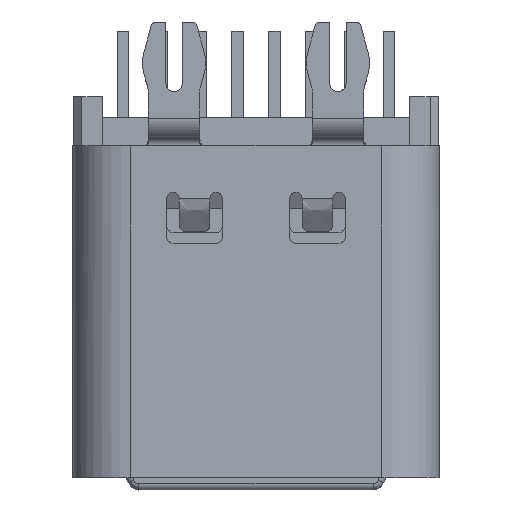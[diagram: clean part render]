
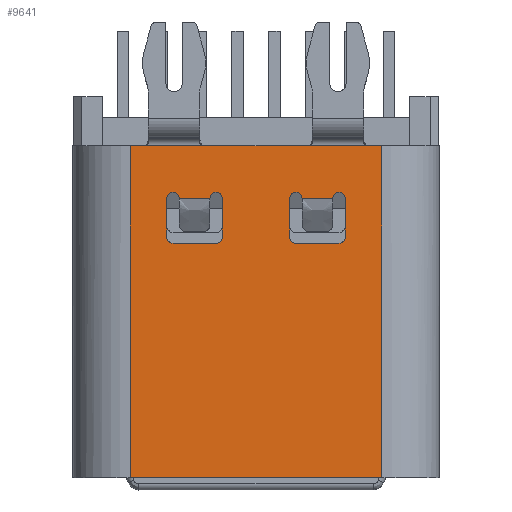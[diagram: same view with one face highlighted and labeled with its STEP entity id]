
A CAD part, top view. The second image highlights one B-rep face of the part: STEP entity #9641.
In plain terms, the highlighted planar face has unit normal (0, 0, 1).
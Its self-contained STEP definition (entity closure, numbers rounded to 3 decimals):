
#341=DIRECTION('',(0.,-1.,0.));
#342=VECTOR('',#341,8.099);
#343=CARTESIAN_POINT('',(-3.07,3.674,1.13));
#344=LINE('',#343,#342);
#577=DIRECTION('',(0.,1.,0.));
#578=VECTOR('',#577,8.099);
#579=CARTESIAN_POINT('',(3.07,-4.425,1.13));
#580=LINE('',#579,#578);
#2213=DIRECTION('',(-1.,0.,0.));
#2214=VECTOR('',#2213,1.45);
#2215=CARTESIAN_POINT('',(2.725,3.674,1.13));
#2216=LINE('',#2215,#2214);
#2217=CARTESIAN_POINT('',(1.275,3.674,1.13));
#2237=CARTESIAN_POINT('',(2.725,3.674,1.13));
#2239=DIRECTION('',(-1.,0.,0.));
#2240=VECTOR('',#2239,6.14);
#2241=CARTESIAN_POINT('',(3.07,-4.425,1.13));
#2242=LINE('',#2241,#2240);
#2243=DIRECTION('',(1.,0.,0.));
#2244=VECTOR('',#2243,0.345);
#2245=CARTESIAN_POINT('',(-3.07,3.674,1.13));
#2246=LINE('',#2245,#2244);
#2247=DIRECTION('',(1.,0.,0.));
#2248=VECTOR('',#2247,2.55);
#2249=CARTESIAN_POINT('',(-1.275,3.674,1.13));
#2250=LINE('',#2249,#2248);
#2251=DIRECTION('',(1.,0.,0.));
#2252=VECTOR('',#2251,0.345);
#2253=CARTESIAN_POINT('',(2.725,3.674,1.13));
#2254=LINE('',#2253,#2252);
#2255=CARTESIAN_POINT('',(-2.025,2.391,1.13));
#2256=DIRECTION('',(0.,0.,-1.));
#2257=DIRECTION('',(-1.,0.,0.));
#2258=AXIS2_PLACEMENT_3D('',#2255,#2256,#2257);
#2260=DIRECTION('',(0.,1.,0.));
#2261=VECTOR('',#2260,0.947);
#2262=CARTESIAN_POINT('',(-2.175,1.444,1.13));
#2263=LINE('',#2262,#2261);
#2264=CARTESIAN_POINT('',(-2.025,1.444,1.13));
#2265=DIRECTION('',(0.,0.,-1.));
#2266=DIRECTION('',(0.,-1.,0.));
#2267=AXIS2_PLACEMENT_3D('',#2264,#2265,#2266);
#2269=DIRECTION('',(-1.,0.,0.));
#2270=VECTOR('',#2269,1.05);
#2271=CARTESIAN_POINT('',(-0.975,1.294,
1.13));
#2272=LINE('',#2271,#2270);
#2273=CARTESIAN_POINT('',(-0.975,1.444,
1.13));
#2274=DIRECTION('',(0.,0.,-1.));
#2275=DIRECTION('',(1.,0.,0.));
#2276=AXIS2_PLACEMENT_3D('',#2273,#2274,#2275);
#2278=DIRECTION('',(0.,-1.,0.));
#2279=VECTOR('',#2278,0.947);
#2280=CARTESIAN_POINT('',(-0.825,2.391,
1.13));
#2281=LINE('',#2280,#2279);
#2282=CARTESIAN_POINT('',(-0.975,2.391,
1.13));
#2283=DIRECTION('',(0.,0.,-1.));
#2284=DIRECTION('',(-1.,0.,0.));
#2285=AXIS2_PLACEMENT_3D('',#2282,#2283,#2284);
#2287=DIRECTION('',(-1.,0.,0.));
#2288=VECTOR('',#2287,0.75);
#2289=CARTESIAN_POINT('',(-1.125,2.391,1.13));
#2290=LINE('',#2289,#2288);
#2291=CARTESIAN_POINT('',(0.975,2.391,1.13));
#2292=DIRECTION('',(0.,0.,-1.));
#2293=DIRECTION('',(-1.,0.,0.));
#2294=AXIS2_PLACEMENT_3D('',#2291,#2292,#2293);
#2296=DIRECTION('',(0.,1.,0.));
#2297=VECTOR('',#2296,0.947);
#2298=CARTESIAN_POINT('',(0.825,1.444,1.13));
#2299=LINE('',#2298,#2297);
#2300=CARTESIAN_POINT('',(0.975,1.444,1.13));
#2301=DIRECTION('',(0.,0.,-1.));
#2302=DIRECTION('',(0.,-1.,0.));
#2303=AXIS2_PLACEMENT_3D('',#2300,#2301,#2302);
#2305=DIRECTION('',(-1.,0.,0.));
#2306=VECTOR('',#2305,1.05);
#2307=CARTESIAN_POINT('',(2.025,1.294,1.13));
#2308=LINE('',#2307,#2306);
#2309=CARTESIAN_POINT('',(2.025,1.444,1.13));
#2310=DIRECTION('',(0.,0.,-1.));
#2311=DIRECTION('',(1.,0.,0.));
#2312=AXIS2_PLACEMENT_3D('',#2309,#2310,#2311);
#2314=DIRECTION('',(0.,-1.,0.));
#2315=VECTOR('',#2314,0.947);
#2316=CARTESIAN_POINT('',(2.175,2.391,1.13));
#2317=LINE('',#2316,#2315);
#2318=CARTESIAN_POINT('',(2.025,2.391,1.13));
#2319=DIRECTION('',(0.,0.,-1.));
#2320=DIRECTION('',(-1.,0.,0.));
#2321=AXIS2_PLACEMENT_3D('',#2318,#2319,#2320);
#2323=DIRECTION('',(1.,0.,0.));
#2324=VECTOR('',#2323,0.75);
#2325=CARTESIAN_POINT('',(1.125,2.391,1.13));
#2326=LINE('',#2325,#2324);
#2336=DIRECTION('',(-1.,0.,0.));
#2337=VECTOR('',#2336,1.45);
#2338=CARTESIAN_POINT('',(-1.275,3.674,1.13));
#2339=LINE('',#2338,#2337);
#5366=VERTEX_POINT('',#2217);
#5372=VERTEX_POINT('',#2237);
#5391=CARTESIAN_POINT('',(-1.275,3.674,1.13));
#5392=CARTESIAN_POINT('',(-2.725,3.674,1.13));
#5393=VERTEX_POINT('',#5391);
#5394=VERTEX_POINT('',#5392);
#5559=CARTESIAN_POINT('',(3.07,3.674,1.13));
#5560=VERTEX_POINT('',#5559);
#5561=CARTESIAN_POINT('',(-3.07,3.674,1.13));
#5562=VERTEX_POINT('',#5561);
#5567=CARTESIAN_POINT('',(2.025,1.294,1.13));
#5568=CARTESIAN_POINT('',(0.975,1.294,1.13));
#5569=VERTEX_POINT('',#5567);
#5570=VERTEX_POINT('',#5568);
#5571=CARTESIAN_POINT('',(0.825,1.444,1.13));
#5572=CARTESIAN_POINT('',(0.825,2.391,1.13));
#5573=VERTEX_POINT('',#5571);
#5574=VERTEX_POINT('',#5572);
#5575=CARTESIAN_POINT('',(2.175,2.391,1.13));
#5576=CARTESIAN_POINT('',(2.175,1.444,1.13));
#5577=VERTEX_POINT('',#5575);
#5578=VERTEX_POINT('',#5576);
#5599=CARTESIAN_POINT('',(1.125,2.391,1.13));
#5600=VERTEX_POINT('',#5599);
#5601=CARTESIAN_POINT('',(1.875,2.391,1.13));
#5602=VERTEX_POINT('',#5601);
#5603=CARTESIAN_POINT('',(-1.125,2.391,1.13));
#5604=CARTESIAN_POINT('',(-1.875,2.391,1.13));
#5605=VERTEX_POINT('',#5603);
#5606=VERTEX_POINT('',#5604);
#5623=CARTESIAN_POINT('',(-2.025,1.294,1.13));
#5624=CARTESIAN_POINT('',(-2.175,1.444,1.13));
#5625=VERTEX_POINT('',#5623);
#5626=VERTEX_POINT('',#5624);
#5627=CARTESIAN_POINT('',(-2.175,2.391,1.13));
#5628=VERTEX_POINT('',#5627);
#5629=CARTESIAN_POINT('',(-0.825,2.391,
1.13));
#5630=CARTESIAN_POINT('',(-0.825,1.444,
1.13));
#5631=VERTEX_POINT('',#5629);
#5632=VERTEX_POINT('',#5630);
#5633=CARTESIAN_POINT('',(-0.975,1.294,
1.13));
#5634=VERTEX_POINT('',#5633);
#5912=CARTESIAN_POINT('',(-3.07,-4.425,
1.13));
#5914=VERTEX_POINT('',#5912);
#5925=CARTESIAN_POINT('',(3.07,-4.425,1.13));
#5927=VERTEX_POINT('',#5925);
#9588=CARTESIAN_POINT('',(2.89,-5.326,1.13));
#9589=DIRECTION('',(0.,0.,1.));
#9590=DIRECTION('',(-1.,0.,0.));
#9591=AXIS2_PLACEMENT_3D('',#9588,#9589,#9590);
#9592=PLANE('',#9591);
#9593=ORIENTED_EDGE('',*,*,#6799,.F.);
#9594=ORIENTED_EDGE('',*,*,#6500,.T.);
#9595=ORIENTED_EDGE('',*,*,#6556,.F.);
#9596=ORIENTED_EDGE('',*,*,#6684,.T.);
#9598=ORIENTED_EDGE('',*,*,#9597,.F.);
#9600=ORIENTED_EDGE('',*,*,#9599,.T.);
#9601=ORIENTED_EDGE('',*,*,#9574,.F.);
#9602=ORIENTED_EDGE('',*,*,#6775,.T.);
#9603=EDGE_LOOP('',(#9593,#9594,#9595,#9596,#9598,#9600,#9601,#9602));
#9604=FACE_OUTER_BOUND('',#9603,.F.);
#9606=ORIENTED_EDGE('',*,*,#9605,.F.);
#9608=ORIENTED_EDGE('',*,*,#9607,.F.);
#9610=ORIENTED_EDGE('',*,*,#9609,.F.);
#9612=ORIENTED_EDGE('',*,*,#9611,.F.);
#9614=ORIENTED_EDGE('',*,*,#9613,.F.);
#9616=ORIENTED_EDGE('',*,*,#9615,.F.);
#9618=ORIENTED_EDGE('',*,*,#9617,.F.);
#9620=ORIENTED_EDGE('',*,*,#9619,.T.);
#9621=EDGE_LOOP('',(#9606,#9608,#9610,#9612,#9614,#9616,#9618,#9620));
#9622=FACE_BOUND('',#9621,.F.);
#9624=ORIENTED_EDGE('',*,*,#9623,.F.);
#9626=ORIENTED_EDGE('',*,*,#9625,.F.);
#9628=ORIENTED_EDGE('',*,*,#9627,.F.);
#9630=ORIENTED_EDGE('',*,*,#9629,.F.);
#9632=ORIENTED_EDGE('',*,*,#9631,.F.);
#9634=ORIENTED_EDGE('',*,*,#9633,.F.);
#9636=ORIENTED_EDGE('',*,*,#9635,.F.);
#9638=ORIENTED_EDGE('',*,*,#9637,.F.);
#9639=EDGE_LOOP('',(#9624,#9626,#9628,#9630,#9632,#9634,#9636,#9638));
#9640=FACE_BOUND('',#9639,.F.);
#2259=CIRCLE('',#2258,0.15);
#2268=CIRCLE('',#2267,0.15);
#2277=CIRCLE('',#2276,0.15);
#2286=CIRCLE('',#2285,0.15);
#2295=CIRCLE('',#2294,0.15);
#2304=CIRCLE('',#2303,0.15);
#2313=CIRCLE('',#2312,0.15);
#2322=CIRCLE('',#2321,0.15);
#6500=EDGE_CURVE('',#5927,#5914,#2242,.T.);
#6556=EDGE_CURVE('',#5562,#5914,#344,.T.);
#6684=EDGE_CURVE('',#5562,#5394,#2246,.T.);
#6775=EDGE_CURVE('',#5372,#5560,#2254,.T.);
#6799=EDGE_CURVE('',#5927,#5560,#580,.T.);
#9574=EDGE_CURVE('',#5372,#5366,#2216,.T.);
#9597=EDGE_CURVE('',#5393,#5394,#2339,.T.);
#9599=EDGE_CURVE('',#5393,#5366,#2250,.T.);
#9605=EDGE_CURVE('',#5628,#5606,#2259,.T.);
#9607=EDGE_CURVE('',#5626,#5628,#2263,.T.);
#9609=EDGE_CURVE('',#5625,#5626,#2268,.T.);
#9611=EDGE_CURVE('',#5634,#5625,#2272,.T.);
#9613=EDGE_CURVE('',#5632,#5634,#2277,.T.);
#9615=EDGE_CURVE('',#5631,#5632,#2281,.T.);
#9617=EDGE_CURVE('',#5605,#5631,#2286,.T.);
#9619=EDGE_CURVE('',#5605,#5606,#2290,.T.);
#9623=EDGE_CURVE('',#5574,#5600,#2295,.T.);
#9625=EDGE_CURVE('',#5573,#5574,#2299,.T.);
#9627=EDGE_CURVE('',#5570,#5573,#2304,.T.);
#9629=EDGE_CURVE('',#5569,#5570,#2308,.T.);
#9631=EDGE_CURVE('',#5578,#5569,#2313,.T.);
#9633=EDGE_CURVE('',#5577,#5578,#2317,.T.);
#9635=EDGE_CURVE('',#5602,#5577,#2322,.T.);
#9637=EDGE_CURVE('',#5600,#5602,#2326,.T.);
#9641=ADVANCED_FACE('',(#9604,#9622,#9640),#9592,.T.);
